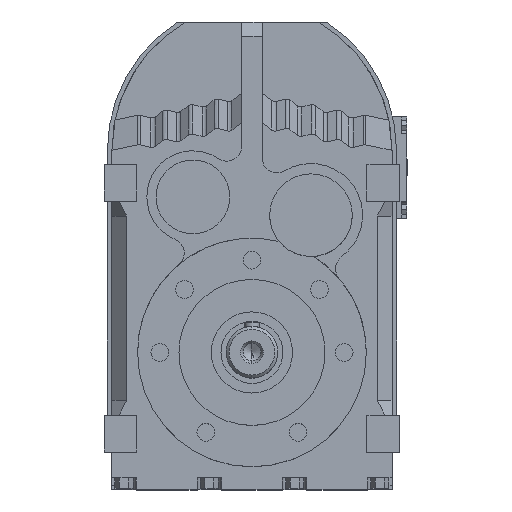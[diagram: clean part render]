
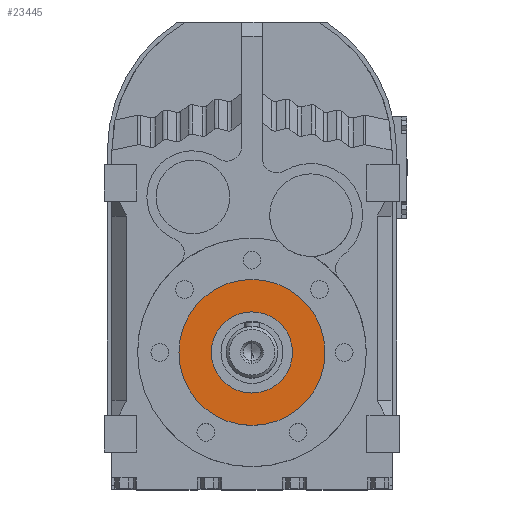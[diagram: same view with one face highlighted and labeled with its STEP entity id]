
A CAD part, top view. The second image highlights one B-rep face of the part: STEP entity #23445.
In plain terms, the highlighted planar face has unit normal (0, 0, 1).
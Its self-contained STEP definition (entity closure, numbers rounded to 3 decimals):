
#21718 = CYLINDRICAL_SURFACE('',#21719,49.5);
#21719 = AXIS2_PLACEMENT_3D('',#21720,#21721,#21722);
#21720 = CARTESIAN_POINT('',(0.,-136.,110.123));
#21721 = DIRECTION('',(0.,0.,1.));
#21722 = DIRECTION('',(1.,0.,0.));
#21744 = CYLINDRICAL_SURFACE('',#21745,49.5);
#21745 = AXIS2_PLACEMENT_3D('',#21746,#21747,#21748);
#21746 = CARTESIAN_POINT('',(0.,-136.,110.123));
#21747 = DIRECTION('',(0.,0.,1.));
#21748 = DIRECTION('',(1.,0.,0.));
#22301 = CYLINDRICAL_SURFACE('',#22302,27.5);
#22302 = AXIS2_PLACEMENT_3D('',#22303,#22304,#22305);
#22303 = CARTESIAN_POINT('',(0.,-136.,110.123));
#22304 = DIRECTION('',(0.,0.,1.));
#22305 = DIRECTION('',(1.,0.,0.));
#22331 = CYLINDRICAL_SURFACE('',#22332,27.5);
#22332 = AXIS2_PLACEMENT_3D('',#22333,#22334,#22335);
#22333 = CARTESIAN_POINT('',(0.,-136.,110.123));
#22334 = DIRECTION('',(0.,0.,1.));
#22335 = DIRECTION('',(1.,0.,0.));
#22684 = VERTEX_POINT('',#22685);
#22685 = CARTESIAN_POINT('',(-49.5,-136.,145.5));
#22706 = VERTEX_POINT('',#22707);
#22707 = CARTESIAN_POINT('',(49.5,-136.,145.5));
#22726 = EDGE_CURVE('',#22706,#22684,#22727,.T.);
#22727 = SURFACE_CURVE('',#22728,(#22733,#22739),.PCURVE_S1.);
#22728 = CIRCLE('',#22729,49.5);
#22729 = AXIS2_PLACEMENT_3D('',#22730,#22731,#22732);
#22730 = CARTESIAN_POINT('',(0.,-136.,145.5));
#22731 = DIRECTION('',(0.,0.,1.));
#22732 = DIRECTION('',(1.,0.,0.));
#22733 = PCURVE('',#21718,#22734);
#22734 = DEFINITIONAL_REPRESENTATION('',(#22735),#22738);
#22735 = B_SPLINE_CURVE_WITH_KNOTS('',1,(#22736,#22737),.UNSPECIFIED.,
  .F.,.F.,(2,2),(0.,3.142),.PIECEWISE_BEZIER_KNOTS.);
#22736 = CARTESIAN_POINT('',(0.,35.377));
#22737 = CARTESIAN_POINT('',(3.142,35.377));
#22738 = ( GEOMETRIC_REPRESENTATION_CONTEXT(2) 
PARAMETRIC_REPRESENTATION_CONTEXT() REPRESENTATION_CONTEXT('2D SPACE',''
  ) );
#22739 = PCURVE('',#22740,#22745);
#22740 = PLANE('',#22741);
#22741 = AXIS2_PLACEMENT_3D('',#22742,#22743,#22744);
#22742 = CARTESIAN_POINT('',(0.,-86.5,145.5));
#22743 = DIRECTION('',(0.,0.,1.));
#22744 = DIRECTION('',(1.,0.,0.));
#22745 = DEFINITIONAL_REPRESENTATION('',(#22746),#22750);
#22746 = CIRCLE('',#22747,49.5);
#22747 = AXIS2_PLACEMENT_2D('',#22748,#22749);
#22748 = CARTESIAN_POINT('',(0.,-49.5));
#22749 = DIRECTION('',(1.,0.));
#22750 = ( GEOMETRIC_REPRESENTATION_CONTEXT(2) 
PARAMETRIC_REPRESENTATION_CONTEXT() REPRESENTATION_CONTEXT('2D SPACE',''
  ) );
#23178 = EDGE_CURVE('',#22684,#22706,#23179,.T.);
#23179 = SURFACE_CURVE('',#23180,(#23185,#23191),.PCURVE_S1.);
#23180 = CIRCLE('',#23181,49.5);
#23181 = AXIS2_PLACEMENT_3D('',#23182,#23183,#23184);
#23182 = CARTESIAN_POINT('',(0.,-136.,145.5));
#23183 = DIRECTION('',(0.,0.,1.));
#23184 = DIRECTION('',(1.,0.,0.));
#23185 = PCURVE('',#21744,#23186);
#23186 = DEFINITIONAL_REPRESENTATION('',(#23187),#23190);
#23187 = B_SPLINE_CURVE_WITH_KNOTS('',1,(#23188,#23189),.UNSPECIFIED.,
  .F.,.F.,(2,2),(3.142,6.283),.PIECEWISE_BEZIER_KNOTS.);
#23188 = CARTESIAN_POINT('',(3.142,35.377));
#23189 = CARTESIAN_POINT('',(6.283,35.377));
#23190 = ( GEOMETRIC_REPRESENTATION_CONTEXT(2) 
PARAMETRIC_REPRESENTATION_CONTEXT() REPRESENTATION_CONTEXT('2D SPACE',''
  ) );
#23191 = PCURVE('',#22740,#23192);
#23192 = DEFINITIONAL_REPRESENTATION('',(#23193),#23197);
#23193 = CIRCLE('',#23194,49.5);
#23194 = AXIS2_PLACEMENT_2D('',#23195,#23196);
#23195 = CARTESIAN_POINT('',(0.,-49.5));
#23196 = DIRECTION('',(1.,0.));
#23197 = ( GEOMETRIC_REPRESENTATION_CONTEXT(2) 
PARAMETRIC_REPRESENTATION_CONTEXT() REPRESENTATION_CONTEXT('2D SPACE',''
  ) );
#23342 = VERTEX_POINT('',#23343);
#23343 = CARTESIAN_POINT('',(27.5,-136.,145.5));
#23362 = EDGE_CURVE('',#23363,#23342,#23365,.T.);
#23363 = VERTEX_POINT('',#23364);
#23364 = CARTESIAN_POINT('',(-27.5,-136.,145.5));
#23365 = SURFACE_CURVE('',#23366,(#23371,#23377),.PCURVE_S1.);
#23366 = CIRCLE('',#23367,27.5);
#23367 = AXIS2_PLACEMENT_3D('',#23368,#23369,#23370);
#23368 = CARTESIAN_POINT('',(0.,-136.,145.5));
#23369 = DIRECTION('',(0.,0.,1.));
#23370 = DIRECTION('',(1.,0.,0.));
#23371 = PCURVE('',#22331,#23372);
#23372 = DEFINITIONAL_REPRESENTATION('',(#23373),#23376);
#23373 = B_SPLINE_CURVE_WITH_KNOTS('',1,(#23374,#23375),.UNSPECIFIED.,
  .F.,.F.,(2,2),(3.142,6.283),.PIECEWISE_BEZIER_KNOTS.);
#23374 = CARTESIAN_POINT('',(3.142,35.377));
#23375 = CARTESIAN_POINT('',(6.283,35.377));
#23376 = ( GEOMETRIC_REPRESENTATION_CONTEXT(2) 
PARAMETRIC_REPRESENTATION_CONTEXT() REPRESENTATION_CONTEXT('2D SPACE',''
  ) );
#23377 = PCURVE('',#22740,#23378);
#23378 = DEFINITIONAL_REPRESENTATION('',(#23379),#23383);
#23379 = CIRCLE('',#23380,27.5);
#23380 = AXIS2_PLACEMENT_2D('',#23381,#23382);
#23381 = CARTESIAN_POINT('',(0.,-49.5));
#23382 = DIRECTION('',(1.,0.));
#23383 = ( GEOMETRIC_REPRESENTATION_CONTEXT(2) 
PARAMETRIC_REPRESENTATION_CONTEXT() REPRESENTATION_CONTEXT('2D SPACE',''
  ) );
#23408 = EDGE_CURVE('',#23342,#23363,#23409,.T.);
#23409 = SURFACE_CURVE('',#23410,(#23415,#23421),.PCURVE_S1.);
#23410 = CIRCLE('',#23411,27.5);
#23411 = AXIS2_PLACEMENT_3D('',#23412,#23413,#23414);
#23412 = CARTESIAN_POINT('',(0.,-136.,145.5));
#23413 = DIRECTION('',(0.,0.,1.));
#23414 = DIRECTION('',(1.,0.,0.));
#23415 = PCURVE('',#22301,#23416);
#23416 = DEFINITIONAL_REPRESENTATION('',(#23417),#23420);
#23417 = B_SPLINE_CURVE_WITH_KNOTS('',1,(#23418,#23419),.UNSPECIFIED.,
  .F.,.F.,(2,2),(0.,3.142),.PIECEWISE_BEZIER_KNOTS.);
#23418 = CARTESIAN_POINT('',(0.,35.377));
#23419 = CARTESIAN_POINT('',(3.142,35.377));
#23420 = ( GEOMETRIC_REPRESENTATION_CONTEXT(2) 
PARAMETRIC_REPRESENTATION_CONTEXT() REPRESENTATION_CONTEXT('2D SPACE',''
  ) );
#23421 = PCURVE('',#22740,#23422);
#23422 = DEFINITIONAL_REPRESENTATION('',(#23423),#23427);
#23423 = CIRCLE('',#23424,27.5);
#23424 = AXIS2_PLACEMENT_2D('',#23425,#23426);
#23425 = CARTESIAN_POINT('',(0.,-49.5));
#23426 = DIRECTION('',(1.,0.));
#23427 = ( GEOMETRIC_REPRESENTATION_CONTEXT(2) 
PARAMETRIC_REPRESENTATION_CONTEXT() REPRESENTATION_CONTEXT('2D SPACE',''
  ) );
#23445 = ADVANCED_FACE('',(#23446,#23450),#22740,.T.);
#23446 = FACE_BOUND('',#23447,.T.);
#23447 = EDGE_LOOP('',(#23448,#23449));
#23448 = ORIENTED_EDGE('',*,*,#22726,.T.);
#23449 = ORIENTED_EDGE('',*,*,#23178,.T.);
#23450 = FACE_BOUND('',#23451,.T.);
#23451 = EDGE_LOOP('',(#23452,#23453));
#23452 = ORIENTED_EDGE('',*,*,#23408,.F.);
#23453 = ORIENTED_EDGE('',*,*,#23362,.F.);
